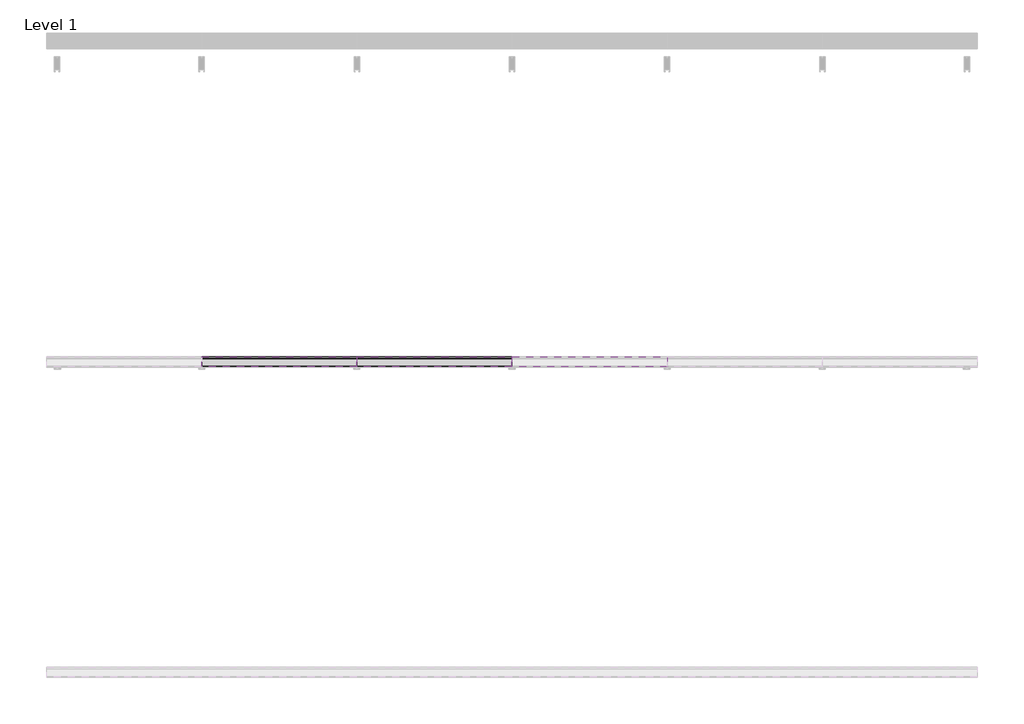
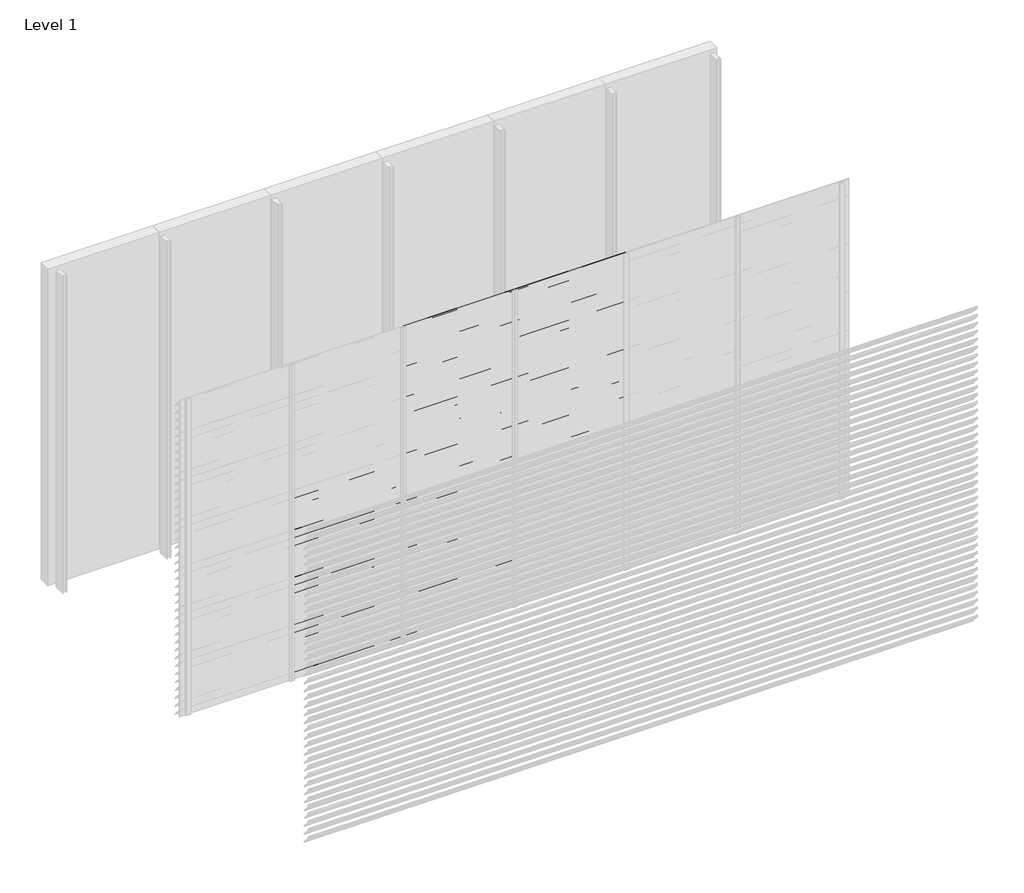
# One storey, part 21 of 35: 86 proxies.
"""IFC4 building model written with IfcOpenShell, lengths in millimetres."""

from ifc_helpers import new_model, si_unit, frame, origin, place, context, project, spatial, polyline, outline, extrude, element, save

model = new_model("IFC4")

# Units and contexts
model_context = context("Model", 3, world=origin())
ifc_project = project(units=[si_unit("LENGTHUNIT", "METRE", prefix="MILLI")], contexts=[model_context])

# Site, building, storey
site = spatial("IfcSite", under=ifc_project)
building = spatial("IfcBuilding", under=site)
storey = spatial("IfcBuildingStorey", under=building, Name="Level 1", Elevation=0.0)

# Proxies
placement = place(None, origin())
element("IfcBuildingElementProxy", 1, Name="Wall Sweeps", at=placement, inside=storey, context=model_context, shape_type="SweptSolid", body=[
    extrude(outline(polyline([(-23996.5, 1725.0), (-23996.5, 1710.5463701), (-23934.5, 1638.9330051), (-23934.5, 1635.4), (-23936.0, 1635.4), (-23936.0, 1638.3738975), (-23998.0, 1709.9872626), (-23998.0, 1725.0), (-23996.5, 1725.0)])), frame((1000.0, 0.0, 0.0), z_axis=(1.0, 0.0, 0.0), x_axis=(0.0, 1.0, 0.0)), (0.0, 0.0, 1.0), 1000.0),
])
element("IfcBuildingElementProxy", 2, Name="Wall Sweeps", at=placement, inside=storey, context=model_context, shape_type="SweptSolid", body=[
    extrude(outline(polyline([(-23996.5, 1650.0), (-23996.5, 1635.5463701), (-23934.5, 1563.9330051), (-23934.5, 1560.4), (-23936.0, 1560.4), (-23936.0, 1563.3738975), (-23998.0, 1634.9872626), (-23998.0, 1650.0), (-23996.5, 1650.0)])), frame((1000.0, 0.0, 0.0), z_axis=(1.0, 0.0, 0.0), x_axis=(0.0, 1.0, 0.0)), (0.0, 0.0, 1.0), 1000.0),
])
element("IfcBuildingElementProxy", 3, Name="Wall Sweeps", at=placement, inside=storey, context=model_context, shape_type="SweptSolid", body=[
    extrude(outline(polyline([(-23996.5, 1575.0), (-23996.5, 1560.5463701), (-23934.5, 1488.9330051), (-23934.5, 1485.4), (-23936.0, 1485.4), (-23936.0, 1488.3738975), (-23998.0, 1559.9872626), (-23998.0, 1575.0), (-23996.5, 1575.0)])), frame((1000.0, 0.0, 0.0), z_axis=(1.0, 0.0, 0.0), x_axis=(0.0, 1.0, 0.0)), (0.0, 0.0, 1.0), 1000.0),
])
element("IfcBuildingElementProxy", 4, Name="Wall Sweeps", at=placement, inside=storey, context=model_context, shape_type="SweptSolid", body=[
    extrude(outline(polyline([(-23996.5, 1500.0), (-23996.5, 1485.5463701), (-23934.5, 1413.9330051), (-23934.5, 1410.4), (-23936.0, 1410.4), (-23936.0, 1413.3738975), (-23998.0, 1484.9872626), (-23998.0, 1500.0), (-23996.5, 1500.0)])), frame((1000.0, 0.0, 0.0), z_axis=(1.0, 0.0, 0.0), x_axis=(0.0, 1.0, 0.0)), (0.0, 0.0, 1.0), 1000.0),
])
element("IfcBuildingElementProxy", 5, Name="Wall Sweeps", at=placement, inside=storey, context=model_context, shape_type="SweptSolid", body=[
    extrude(outline(polyline([(-23996.5, 1425.0), (-23996.5, 1410.5463701), (-23934.5, 1338.9330051), (-23934.5, 1335.4), (-23936.0, 1335.4), (-23936.0, 1338.3738975), (-23998.0, 1409.9872626), (-23998.0, 1425.0), (-23996.5, 1425.0)])), frame((1000.0, 0.0, 0.0), z_axis=(1.0, 0.0, 0.0), x_axis=(0.0, 1.0, 0.0)), (0.0, 0.0, 1.0), 1000.0),
])
element("IfcBuildingElementProxy", 6, Name="Wall Sweeps", at=placement, inside=storey, context=model_context, shape_type="SweptSolid", body=[
    extrude(outline(polyline([(-23996.5, 1350.0), (-23996.5, 1335.5463701), (-23934.5, 1263.9330051), (-23934.5, 1260.4), (-23936.0, 1260.4), (-23936.0, 1263.3738975), (-23998.0, 1334.9872626), (-23998.0, 1350.0), (-23996.5, 1350.0)])), frame((1000.0, 0.0, 0.0), z_axis=(1.0, 0.0, 0.0), x_axis=(0.0, 1.0, 0.0)), (0.0, 0.0, 1.0), 1000.0),
])
element("IfcBuildingElementProxy", 7, Name="Wall Sweeps", at=placement, inside=storey, context=model_context, shape_type="SweptSolid", body=[
    extrude(outline(polyline([(-23996.5, 1275.0), (-23996.5, 1260.5463701), (-23934.5, 1188.9330051), (-23934.5, 1185.4), (-23936.0, 1185.4), (-23936.0, 1188.3738975), (-23998.0, 1259.9872626), (-23998.0, 1275.0), (-23996.5, 1275.0)])), frame((1000.0, 0.0, 0.0), z_axis=(1.0, 0.0, 0.0), x_axis=(0.0, 1.0, 0.0)), (0.0, 0.0, 1.0), 1000.0),
])
element("IfcBuildingElementProxy", 8, Name="Wall Sweeps", at=placement, inside=storey, context=model_context, shape_type="SweptSolid", body=[
    extrude(outline(polyline([(-23996.5, 1200.0), (-23996.5, 1185.5463701), (-23934.5, 1113.9330051), (-23934.5, 1110.4), (-23936.0, 1110.4), (-23936.0, 1113.3738975), (-23998.0, 1184.9872626), (-23998.0, 1200.0), (-23996.5, 1200.0)])), frame((1000.0, 0.0, 0.0), z_axis=(1.0, 0.0, 0.0), x_axis=(0.0, 1.0, 0.0)), (0.0, 0.0, 1.0), 1000.0),
])
element("IfcBuildingElementProxy", 9, Name="Wall Sweeps", at=placement, inside=storey, context=model_context, shape_type="SweptSolid", body=[
    extrude(outline(polyline([(-23996.5, 1125.0), (-23996.5, 1110.5463701), (-23934.5, 1038.9330051), (-23934.5, 1035.4), (-23936.0, 1035.4), (-23936.0, 1038.3738975), (-23998.0, 1109.9872626), (-23998.0, 1125.0), (-23996.5, 1125.0)])), frame((1000.0, 0.0, 0.0), z_axis=(1.0, 0.0, 0.0), x_axis=(0.0, 1.0, 0.0)), (0.0, 0.0, 1.0), 1000.0),
])
element("IfcBuildingElementProxy", 10, Name="Wall Sweeps", at=placement, inside=storey, context=model_context, shape_type="SweptSolid", body=[
    extrude(outline(polyline([(-23996.5, 1050.0), (-23996.5, 1035.5463701), (-23934.5, 963.9330051), (-23934.5, 960.4), (-23936.0, 960.4), (-23936.0, 963.3738975), (-23998.0, 1034.9872626), (-23998.0, 1050.0), (-23996.5, 1050.0)])), frame((1000.0, 0.0, 0.0), z_axis=(1.0, 0.0, 0.0), x_axis=(0.0, 1.0, 0.0)), (0.0, 0.0, 1.0), 1000.0),
])
element("IfcBuildingElementProxy", 11, Name="Wall Sweeps", at=placement, inside=storey, context=model_context, shape_type="SweptSolid", body=[
    extrude(outline(polyline([(-23996.5, 975.0), (-23996.5, 960.5463701), (-23934.5, 888.9330051), (-23934.5, 885.4), (-23936.0, 885.4), (-23936.0, 888.3738975), (-23998.0, 959.9872626), (-23998.0, 975.0), (-23996.5, 975.0)])), frame((1000.0, 0.0, 0.0), z_axis=(1.0, 0.0, 0.0), x_axis=(0.0, 1.0, 0.0)), (0.0, 0.0, 1.0), 1000.0),
])
element("IfcBuildingElementProxy", 12, Name="Wall Sweeps", at=placement, inside=storey, context=model_context, shape_type="SweptSolid", body=[
    extrude(outline(polyline([(-23996.5, 900.0), (-23996.5, 885.5463701), (-23934.5, 813.9330051), (-23934.5, 810.4), (-23936.0, 810.4), (-23936.0, 813.3738975), (-23998.0, 884.9872626), (-23998.0, 900.0), (-23996.5, 900.0)])), frame((1000.0, 0.0, 0.0), z_axis=(1.0, 0.0, 0.0), x_axis=(0.0, 1.0, 0.0)), (0.0, 0.0, 1.0), 1000.0),
])
element("IfcBuildingElementProxy", 13, Name="Wall Sweeps", at=placement, inside=storey, context=model_context, shape_type="SweptSolid", body=[
    extrude(outline(polyline([(-23996.5, 825.0), (-23996.5, 810.5463701), (-23934.5, 738.9330051), (-23934.5, 735.4), (-23936.0, 735.4), (-23936.0, 738.3738975), (-23998.0, 809.9872626), (-23998.0, 825.0), (-23996.5, 825.0)])), frame((1000.0, 0.0, 0.0), z_axis=(1.0, 0.0, 0.0), x_axis=(0.0, 1.0, 0.0)), (0.0, 0.0, 1.0), 1000.0),
])
element("IfcBuildingElementProxy", 14, Name="Wall Sweeps", at=placement, inside=storey, context=model_context, shape_type="SweptSolid", body=[
    extrude(outline(polyline([(-23996.5, 750.0), (-23996.5, 735.5463701), (-23934.5, 663.9330051), (-23934.5, 660.4), (-23936.0, 660.4), (-23936.0, 663.3738975), (-23998.0, 734.9872626), (-23998.0, 750.0), (-23996.5, 750.0)])), frame((1000.0, 0.0, 0.0), z_axis=(1.0, 0.0, 0.0), x_axis=(0.0, 1.0, 0.0)), (0.0, 0.0, 1.0), 1000.0),
])
element("IfcBuildingElementProxy", 15, Name="Wall Sweeps", at=placement, inside=storey, context=model_context, shape_type="SweptSolid", body=[
    extrude(outline(polyline([(-23996.5, 675.0), (-23996.5, 660.5463701), (-23934.5, 588.9330051), (-23934.5, 585.4), (-23936.0, 585.4), (-23936.0, 588.3738975), (-23998.0, 659.9872626), (-23998.0, 675.0), (-23996.5, 675.0)])), frame((1000.0, 0.0, 0.0), z_axis=(1.0, 0.0, 0.0), x_axis=(0.0, 1.0, 0.0)), (0.0, 0.0, 1.0), 1000.0),
])
element("IfcBuildingElementProxy", 16, Name="Wall Sweeps", at=placement, inside=storey, context=model_context, shape_type="SweptSolid", body=[
    extrude(outline(polyline([(-23996.5, 600.0), (-23996.5, 585.5463701), (-23934.5, 513.9330051), (-23934.5, 510.4), (-23936.0, 510.4), (-23936.0, 513.3738975), (-23998.0, 584.9872626), (-23998.0, 600.0), (-23996.5, 600.0)])), frame((1000.0, 0.0, 0.0), z_axis=(1.0, 0.0, 0.0), x_axis=(0.0, 1.0, 0.0)), (0.0, 0.0, 1.0), 1000.0),
])
element("IfcBuildingElementProxy", 17, Name="Wall Sweeps", at=placement, inside=storey, context=model_context, shape_type="SweptSolid", body=[
    extrude(outline(polyline([(-23996.5, 525.0), (-23996.5, 510.5463701), (-23934.5, 438.9330051), (-23934.5, 435.4), (-23936.0, 435.4), (-23936.0, 438.3738975), (-23998.0, 509.9872626), (-23998.0, 525.0), (-23996.5, 525.0)])), frame((1000.0, 0.0, 0.0), z_axis=(1.0, 0.0, 0.0), x_axis=(0.0, 1.0, 0.0)), (0.0, 0.0, 1.0), 1000.0),
])
element("IfcBuildingElementProxy", 18, Name="Wall Sweeps", at=placement, inside=storey, context=model_context, shape_type="SweptSolid", body=[
    extrude(outline(polyline([(-23996.5, 450.0), (-23996.5, 435.5463701), (-23934.5, 363.9330051), (-23934.5, 360.4), (-23936.0, 360.4), (-23936.0, 363.3738975), (-23998.0, 434.9872626), (-23998.0, 450.0), (-23996.5, 450.0)])), frame((1000.0, 0.0, 0.0), z_axis=(1.0, 0.0, 0.0), x_axis=(0.0, 1.0, 0.0)), (0.0, 0.0, 1.0), 1000.0),
])
element("IfcBuildingElementProxy", 19, Name="Wall Sweeps", at=placement, inside=storey, context=model_context, shape_type="SweptSolid", body=[
    extrude(outline(polyline([(-23996.5, 375.0), (-23996.5, 360.5463701), (-23934.5, 288.9330051), (-23934.5, 285.4), (-23936.0, 285.4), (-23936.0, 288.3738975), (-23998.0, 359.9872626), (-23998.0, 375.0), (-23996.5, 375.0)])), frame((1000.0, 0.0, 0.0), z_axis=(1.0, 0.0, 0.0), x_axis=(0.0, 1.0, 0.0)), (0.0, 0.0, 1.0), 1000.0),
])
element("IfcBuildingElementProxy", 20, Name="Wall Sweeps", at=placement, inside=storey, context=model_context, shape_type="SweptSolid", body=[
    extrude(outline(polyline([(-23996.5, 300.0), (-23996.5, 285.5463701), (-23934.5, 213.9330051), (-23934.5, 210.4), (-23936.0, 210.4), (-23936.0, 213.3738975), (-23998.0, 284.9872626), (-23998.0, 300.0), (-23996.5, 300.0)])), frame((1000.0, 0.0, 0.0), z_axis=(1.0, 0.0, 0.0), x_axis=(0.0, 1.0, 0.0)), (0.0, 0.0, 1.0), 1000.0),
])
element("IfcBuildingElementProxy", 21, Name="Wall Sweeps", at=placement, inside=storey, context=model_context, shape_type="SweptSolid", body=[
    extrude(outline(polyline([(-23996.5, 225.0), (-23996.5, 210.5463701), (-23934.5, 138.9330051), (-23934.5, 135.4), (-23936.0, 135.4), (-23936.0, 138.3738975), (-23998.0, 209.9872626), (-23998.0, 225.0), (-23996.5, 225.0)])), frame((1000.0, 0.0, 0.0), z_axis=(1.0, 0.0, 0.0), x_axis=(0.0, 1.0, 0.0)), (0.0, 0.0, 1.0), 1000.0),
])
element("IfcBuildingElementProxy", 22, Name="Wall Sweeps", at=placement, inside=storey, context=model_context, shape_type="SweptSolid", body=[
    extrude(outline(polyline([(-23996.5, 150.0), (-23996.5, 135.5463701), (-23934.5, 63.9330051), (-23934.5, 60.4), (-23936.0, 60.4), (-23936.0, 63.3738975), (-23998.0, 134.9872626), (-23998.0, 150.0), (-23996.5, 150.0)])), frame((1000.0, 0.0, 0.0), z_axis=(1.0, 0.0, 0.0), x_axis=(0.0, 1.0, 0.0)), (0.0, 0.0, 1.0), 1000.0),
])
element("IfcBuildingElementProxy", 23, Name="Wall Sweeps", at=placement, inside=storey, context=model_context, shape_type="SweptSolid", body=[
    extrude(outline(polyline([(-23996.5, 75.0), (-23996.5, 60.5463701), (-23934.5, -11.0669949), (-23934.5, -14.6), (-23936.0, -14.6), (-23936.0, -11.6261025), (-23998.0, 59.9872626), (-23998.0, 75.0), (-23996.5, 75.0)])), frame((1000.0, 0.0, 0.0), z_axis=(1.0, 0.0, 0.0), x_axis=(0.0, 1.0, 0.0)), (0.0, 0.0, 1.0), 1000.0),
])
element("IfcBuildingElementProxy", 24, Name="Wall Sweeps", at=placement, inside=storey, context=model_context, shape_type="SweptSolid", body=[
    extrude(outline(polyline([(-23996.5, 3000.0), (-23996.5, 2985.5463701), (-23934.5, 2913.9330051), (-23934.5, 2910.4), (-23936.0, 2910.4), (-23936.0, 2913.3738975), (-23998.0, 2984.9872626), (-23998.0, 3000.0), (-23996.5, 3000.0)])), frame((2000.0, 0.0, 0.0), z_axis=(1.0, 0.0, 0.0), x_axis=(0.0, 1.0, 0.0)), (0.0, 0.0, 1.0), 1000.0),
])
element("IfcBuildingElementProxy", 25, Name="Wall Sweeps", at=placement, inside=storey, context=model_context, shape_type="SweptSolid", body=[
    extrude(outline(polyline([(-23996.5, 2925.0), (-23996.5, 2910.5463701), (-23934.5, 2838.9330051), (-23934.5, 2835.4), (-23936.0, 2835.4), (-23936.0, 2838.3738975), (-23998.0, 2909.9872626), (-23998.0, 2925.0), (-23996.5, 2925.0)])), frame((2000.0, 0.0, 0.0), z_axis=(1.0, 0.0, 0.0), x_axis=(0.0, 1.0, 0.0)), (0.0, 0.0, 1.0), 1000.0),
])
element("IfcBuildingElementProxy", 26, Name="Wall Sweeps", at=placement, inside=storey, context=model_context, shape_type="SweptSolid", body=[
    extrude(outline(polyline([(-23996.5, 2850.0), (-23996.5, 2835.5463701), (-23934.5, 2763.9330051), (-23934.5, 2760.4), (-23936.0, 2760.4), (-23936.0, 2763.3738975), (-23998.0, 2834.9872626), (-23998.0, 2850.0), (-23996.5, 2850.0)])), frame((2000.0, 0.0, 0.0), z_axis=(1.0, 0.0, 0.0), x_axis=(0.0, 1.0, 0.0)), (0.0, 0.0, 1.0), 1000.0),
])
element("IfcBuildingElementProxy", 27, Name="Wall Sweeps", at=placement, inside=storey, context=model_context, shape_type="SweptSolid", body=[
    extrude(outline(polyline([(-23996.5, 2775.0), (-23996.5, 2760.5463701), (-23934.5, 2688.9330051), (-23934.5, 2685.4), (-23936.0, 2685.4), (-23936.0, 2688.3738975), (-23998.0, 2759.9872626), (-23998.0, 2775.0), (-23996.5, 2775.0)])), frame((2000.0, 0.0, 0.0), z_axis=(1.0, 0.0, 0.0), x_axis=(0.0, 1.0, 0.0)), (0.0, 0.0, 1.0), 1000.0),
])
element("IfcBuildingElementProxy", 28, Name="Wall Sweeps", at=placement, inside=storey, context=model_context, shape_type="SweptSolid", body=[
    extrude(outline(polyline([(-23996.5, 2700.0), (-23996.5, 2685.5463701), (-23934.5, 2613.9330051), (-23934.5, 2610.4), (-23936.0, 2610.4), (-23936.0, 2613.3738975), (-23998.0, 2684.9872626), (-23998.0, 2700.0), (-23996.5, 2700.0)])), frame((2000.0, 0.0, 0.0), z_axis=(1.0, 0.0, 0.0), x_axis=(0.0, 1.0, 0.0)), (0.0, 0.0, 1.0), 1000.0),
])
element("IfcBuildingElementProxy", 29, Name="Wall Sweeps", at=placement, inside=storey, context=model_context, shape_type="SweptSolid", body=[
    extrude(outline(polyline([(-23996.5, 2625.0), (-23996.5, 2610.5463701), (-23934.5, 2538.9330051), (-23934.5, 2535.4), (-23936.0, 2535.4), (-23936.0, 2538.3738975), (-23998.0, 2609.9872626), (-23998.0, 2625.0), (-23996.5, 2625.0)])), frame((2000.0, 0.0, 0.0), z_axis=(1.0, 0.0, 0.0), x_axis=(0.0, 1.0, 0.0)), (0.0, 0.0, 1.0), 1000.0),
])
element("IfcBuildingElementProxy", 30, Name="Wall Sweeps", at=placement, inside=storey, context=model_context, shape_type="SweptSolid", body=[
    extrude(outline(polyline([(-23996.5, 2550.0), (-23996.5, 2535.5463701), (-23934.5, 2463.9330051), (-23934.5, 2460.4), (-23936.0, 2460.4), (-23936.0, 2463.3738975), (-23998.0, 2534.9872626), (-23998.0, 2550.0), (-23996.5, 2550.0)])), frame((2000.0, 0.0, 0.0), z_axis=(1.0, 0.0, 0.0), x_axis=(0.0, 1.0, 0.0)), (0.0, 0.0, 1.0), 1000.0),
])
element("IfcBuildingElementProxy", 31, Name="Wall Sweeps", at=placement, inside=storey, context=model_context, shape_type="SweptSolid", body=[
    extrude(outline(polyline([(-23996.5, 2475.0), (-23996.5, 2460.5463701), (-23934.5, 2388.9330051), (-23934.5, 2385.4), (-23936.0, 2385.4), (-23936.0, 2388.3738975), (-23998.0, 2459.9872626), (-23998.0, 2475.0), (-23996.5, 2475.0)])), frame((2000.0, 0.0, 0.0), z_axis=(1.0, 0.0, 0.0), x_axis=(0.0, 1.0, 0.0)), (0.0, 0.0, 1.0), 1000.0),
])
element("IfcBuildingElementProxy", 32, Name="Wall Sweeps", at=placement, inside=storey, context=model_context, shape_type="SweptSolid", body=[
    extrude(outline(polyline([(-23996.5, 2400.0), (-23996.5, 2385.5463701), (-23934.5, 2313.9330051), (-23934.5, 2310.4), (-23936.0, 2310.4), (-23936.0, 2313.3738975), (-23998.0, 2384.9872626), (-23998.0, 2400.0), (-23996.5, 2400.0)])), frame((2000.0, 0.0, 0.0), z_axis=(1.0, 0.0, 0.0), x_axis=(0.0, 1.0, 0.0)), (0.0, 0.0, 1.0), 1000.0),
])
element("IfcBuildingElementProxy", 33, Name="Wall Sweeps", at=placement, inside=storey, context=model_context, shape_type="SweptSolid", body=[
    extrude(outline(polyline([(-23996.5, 2325.0), (-23996.5, 2310.5463701), (-23934.5, 2238.9330051), (-23934.5, 2235.4), (-23936.0, 2235.4), (-23936.0, 2238.3738975), (-23998.0, 2309.9872626), (-23998.0, 2325.0), (-23996.5, 2325.0)])), frame((2000.0, 0.0, 0.0), z_axis=(1.0, 0.0, 0.0), x_axis=(0.0, 1.0, 0.0)), (0.0, 0.0, 1.0), 1000.0),
])
element("IfcBuildingElementProxy", 34, Name="Wall Sweeps", at=placement, inside=storey, context=model_context, shape_type="SweptSolid", body=[
    extrude(outline(polyline([(-23996.5, 2250.0), (-23996.5, 2235.5463701), (-23934.5, 2163.9330051), (-23934.5, 2160.4), (-23936.0, 2160.4), (-23936.0, 2163.3738975), (-23998.0, 2234.9872626), (-23998.0, 2250.0), (-23996.5, 2250.0)])), frame((2000.0, 0.0, 0.0), z_axis=(1.0, 0.0, 0.0), x_axis=(0.0, 1.0, 0.0)), (0.0, 0.0, 1.0), 1000.0),
])
element("IfcBuildingElementProxy", 35, Name="Wall Sweeps", at=placement, inside=storey, context=model_context, shape_type="SweptSolid", body=[
    extrude(outline(polyline([(-23996.5, 2175.0), (-23996.5, 2160.5463701), (-23934.5, 2088.9330051), (-23934.5, 2085.4), (-23936.0, 2085.4), (-23936.0, 2088.3738975), (-23998.0, 2159.9872626), (-23998.0, 2175.0), (-23996.5, 2175.0)])), frame((2000.0, 0.0, 0.0), z_axis=(1.0, 0.0, 0.0), x_axis=(0.0, 1.0, 0.0)), (0.0, 0.0, 1.0), 1000.0),
])
element("IfcBuildingElementProxy", 36, Name="Wall Sweeps", at=placement, inside=storey, context=model_context, shape_type="SweptSolid", body=[
    extrude(outline(polyline([(-23996.5, 2100.0), (-23996.5, 2085.5463701), (-23934.5, 2013.9330051), (-23934.5, 2010.4), (-23936.0, 2010.4), (-23936.0, 2013.3738975), (-23998.0, 2084.9872626), (-23998.0, 2100.0), (-23996.5, 2100.0)])), frame((2000.0, 0.0, 0.0), z_axis=(1.0, 0.0, 0.0), x_axis=(0.0, 1.0, 0.0)), (0.0, 0.0, 1.0), 1000.0),
])
element("IfcBuildingElementProxy", 37, Name="Wall Sweeps", at=placement, inside=storey, context=model_context, shape_type="SweptSolid", body=[
    extrude(outline(polyline([(-23996.5, 2025.0), (-23996.5, 2010.5463701), (-23934.5, 1938.9330051), (-23934.5, 1935.4), (-23936.0, 1935.4), (-23936.0, 1938.3738975), (-23998.0, 2009.9872626), (-23998.0, 2025.0), (-23996.5, 2025.0)])), frame((2000.0, 0.0, 0.0), z_axis=(1.0, 0.0, 0.0), x_axis=(0.0, 1.0, 0.0)), (0.0, 0.0, 1.0), 1000.0),
])
element("IfcBuildingElementProxy", 38, Name="Wall Sweeps", at=placement, inside=storey, context=model_context, shape_type="SweptSolid", body=[
    extrude(outline(polyline([(-23996.5, 1950.0), (-23996.5, 1935.5463701), (-23934.5, 1863.9330051), (-23934.5, 1860.4), (-23936.0, 1860.4), (-23936.0, 1863.3738975), (-23998.0, 1934.9872626), (-23998.0, 1950.0), (-23996.5, 1950.0)])), frame((2000.0, 0.0, 0.0), z_axis=(1.0, 0.0, 0.0), x_axis=(0.0, 1.0, 0.0)), (0.0, 0.0, 1.0), 1000.0),
])
element("IfcBuildingElementProxy", 39, Name="Wall Sweeps", at=placement, inside=storey, context=model_context, shape_type="SweptSolid", body=[
    extrude(outline(polyline([(-23996.5, 1875.0), (-23996.5, 1860.5463701), (-23934.5, 1788.9330051), (-23934.5, 1785.4), (-23936.0, 1785.4), (-23936.0, 1788.3738975), (-23998.0, 1859.9872626), (-23998.0, 1875.0), (-23996.5, 1875.0)])), frame((2000.0, 0.0, 0.0), z_axis=(1.0, 0.0, 0.0), x_axis=(0.0, 1.0, 0.0)), (0.0, 0.0, 1.0), 1000.0),
])
element("IfcBuildingElementProxy", 40, Name="Wall Sweeps", at=placement, inside=storey, context=model_context, shape_type="SweptSolid", body=[
    extrude(outline(polyline([(-23996.5, 1800.0), (-23996.5, 1785.5463701), (-23934.5, 1713.9330051), (-23934.5, 1710.4), (-23936.0, 1710.4), (-23936.0, 1713.3738975), (-23998.0, 1784.9872626), (-23998.0, 1800.0), (-23996.5, 1800.0)])), frame((2000.0, 0.0, 0.0), z_axis=(1.0, 0.0, 0.0), x_axis=(0.0, 1.0, 0.0)), (0.0, 0.0, 1.0), 1000.0),
])
element("IfcBuildingElementProxy", 41, Name="Wall Sweeps", at=placement, inside=storey, context=model_context, shape_type="SweptSolid", body=[
    extrude(outline(polyline([(-23996.5, 1725.0), (-23996.5, 1710.5463701), (-23934.5, 1638.9330051), (-23934.5, 1635.4), (-23936.0, 1635.4), (-23936.0, 1638.3738975), (-23998.0, 1709.9872626), (-23998.0, 1725.0), (-23996.5, 1725.0)])), frame((2000.0, 0.0, 0.0), z_axis=(1.0, 0.0, 0.0), x_axis=(0.0, 1.0, 0.0)), (0.0, 0.0, 1.0), 1000.0),
])
element("IfcBuildingElementProxy", 42, Name="Wall Sweeps", at=placement, inside=storey, context=model_context, shape_type="SweptSolid", body=[
    extrude(outline(polyline([(-23996.5, 1650.0), (-23996.5, 1635.5463701), (-23934.5, 1563.9330051), (-23934.5, 1560.4), (-23936.0, 1560.4), (-23936.0, 1563.3738975), (-23998.0, 1634.9872626), (-23998.0, 1650.0), (-23996.5, 1650.0)])), frame((2000.0, 0.0, 0.0), z_axis=(1.0, 0.0, 0.0), x_axis=(0.0, 1.0, 0.0)), (0.0, 0.0, 1.0), 1000.0),
])
element("IfcBuildingElementProxy", 43, Name="Wall Sweeps", at=placement, inside=storey, context=model_context, shape_type="SweptSolid", body=[
    extrude(outline(polyline([(-23996.5, 1575.0), (-23996.5, 1560.5463701), (-23934.5, 1488.9330051), (-23934.5, 1485.4), (-23936.0, 1485.4), (-23936.0, 1488.3738975), (-23998.0, 1559.9872626), (-23998.0, 1575.0), (-23996.5, 1575.0)])), frame((2000.0, 0.0, 0.0), z_axis=(1.0, 0.0, 0.0), x_axis=(0.0, 1.0, 0.0)), (0.0, 0.0, 1.0), 1000.0),
])
element("IfcBuildingElementProxy", 44, Name="Wall Sweeps", at=placement, inside=storey, context=model_context, shape_type="SweptSolid", body=[
    extrude(outline(polyline([(-23996.5, 1500.0), (-23996.5, 1485.5463701), (-23934.5, 1413.9330051), (-23934.5, 1410.4), (-23936.0, 1410.4), (-23936.0, 1413.3738975), (-23998.0, 1484.9872626), (-23998.0, 1500.0), (-23996.5, 1500.0)])), frame((2000.0, 0.0, 0.0), z_axis=(1.0, 0.0, 0.0), x_axis=(0.0, 1.0, 0.0)), (0.0, 0.0, 1.0), 1000.0),
])
element("IfcBuildingElementProxy", 45, Name="Wall Sweeps", at=placement, inside=storey, context=model_context, shape_type="SweptSolid", body=[
    extrude(outline(polyline([(-23996.5, 1425.0), (-23996.5, 1410.5463701), (-23934.5, 1338.9330051), (-23934.5, 1335.4), (-23936.0, 1335.4), (-23936.0, 1338.3738975), (-23998.0, 1409.9872626), (-23998.0, 1425.0), (-23996.5, 1425.0)])), frame((2000.0, 0.0, 0.0), z_axis=(1.0, 0.0, 0.0), x_axis=(0.0, 1.0, 0.0)), (0.0, 0.0, 1.0), 1000.0),
])
element("IfcBuildingElementProxy", 46, Name="Wall Sweeps", at=placement, inside=storey, context=model_context, shape_type="SweptSolid", body=[
    extrude(outline(polyline([(-23996.5, 1350.0), (-23996.5, 1335.5463701), (-23934.5, 1263.9330051), (-23934.5, 1260.4), (-23936.0, 1260.4), (-23936.0, 1263.3738975), (-23998.0, 1334.9872626), (-23998.0, 1350.0), (-23996.5, 1350.0)])), frame((2000.0, 0.0, 0.0), z_axis=(1.0, 0.0, 0.0), x_axis=(0.0, 1.0, 0.0)), (0.0, 0.0, 1.0), 1000.0),
])
element("IfcBuildingElementProxy", 47, Name="Wall Sweeps", at=placement, inside=storey, context=model_context, shape_type="SweptSolid", body=[
    extrude(outline(polyline([(-23996.5, 1275.0), (-23996.5, 1260.5463701), (-23934.5, 1188.9330051), (-23934.5, 1185.4), (-23936.0, 1185.4), (-23936.0, 1188.3738975), (-23998.0, 1259.9872626), (-23998.0, 1275.0), (-23996.5, 1275.0)])), frame((2000.0, 0.0, 0.0), z_axis=(1.0, 0.0, 0.0), x_axis=(0.0, 1.0, 0.0)), (0.0, 0.0, 1.0), 1000.0),
])
element("IfcBuildingElementProxy", 48, Name="Wall Sweeps", at=placement, inside=storey, context=model_context, shape_type="SweptSolid", body=[
    extrude(outline(polyline([(-23996.5, 1200.0), (-23996.5, 1185.5463701), (-23934.5, 1113.9330051), (-23934.5, 1110.4), (-23936.0, 1110.4), (-23936.0, 1113.3738975), (-23998.0, 1184.9872626), (-23998.0, 1200.0), (-23996.5, 1200.0)])), frame((2000.0, 0.0, 0.0), z_axis=(1.0, 0.0, 0.0), x_axis=(0.0, 1.0, 0.0)), (0.0, 0.0, 1.0), 1000.0),
])
element("IfcBuildingElementProxy", 49, Name="Wall Sweeps", at=placement, inside=storey, context=model_context, shape_type="SweptSolid", body=[
    extrude(outline(polyline([(-23996.5, 1125.0), (-23996.5, 1110.5463701), (-23934.5, 1038.9330051), (-23934.5, 1035.4), (-23936.0, 1035.4), (-23936.0, 1038.3738975), (-23998.0, 1109.9872626), (-23998.0, 1125.0), (-23996.5, 1125.0)])), frame((2000.0, 0.0, 0.0), z_axis=(1.0, 0.0, 0.0), x_axis=(0.0, 1.0, 0.0)), (0.0, 0.0, 1.0), 1000.0),
])
element("IfcBuildingElementProxy", 50, Name="Wall Sweeps", at=placement, inside=storey, context=model_context, shape_type="SweptSolid", body=[
    extrude(outline(polyline([(-23996.5, 1050.0), (-23996.5, 1035.5463701), (-23934.5, 963.9330051), (-23934.5, 960.4), (-23936.0, 960.4), (-23936.0, 963.3738975), (-23998.0, 1034.9872626), (-23998.0, 1050.0), (-23996.5, 1050.0)])), frame((2000.0, 0.0, 0.0), z_axis=(1.0, 0.0, 0.0), x_axis=(0.0, 1.0, 0.0)), (0.0, 0.0, 1.0), 1000.0),
])
element("IfcBuildingElementProxy", 51, Name="Wall Sweeps", at=placement, inside=storey, context=model_context, shape_type="SweptSolid", body=[
    extrude(outline(polyline([(-23996.5, 975.0), (-23996.5, 960.5463701), (-23934.5, 888.9330051), (-23934.5, 885.4), (-23936.0, 885.4), (-23936.0, 888.3738975), (-23998.0, 959.9872626), (-23998.0, 975.0), (-23996.5, 975.0)])), frame((2000.0, 0.0, 0.0), z_axis=(1.0, 0.0, 0.0), x_axis=(0.0, 1.0, 0.0)), (0.0, 0.0, 1.0), 1000.0),
])
element("IfcBuildingElementProxy", 52, Name="Wall Sweeps", at=placement, inside=storey, context=model_context, shape_type="SweptSolid", body=[
    extrude(outline(polyline([(-23996.5, 900.0), (-23996.5, 885.5463701), (-23934.5, 813.9330051), (-23934.5, 810.4), (-23936.0, 810.4), (-23936.0, 813.3738975), (-23998.0, 884.9872626), (-23998.0, 900.0), (-23996.5, 900.0)])), frame((2000.0, 0.0, 0.0), z_axis=(1.0, 0.0, 0.0), x_axis=(0.0, 1.0, 0.0)), (0.0, 0.0, 1.0), 1000.0),
])
element("IfcBuildingElementProxy", 53, Name="Wall Sweeps", at=placement, inside=storey, context=model_context, shape_type="SweptSolid", body=[
    extrude(outline(polyline([(-23996.5, 825.0), (-23996.5, 810.5463701), (-23934.5, 738.9330051), (-23934.5, 735.4), (-23936.0, 735.4), (-23936.0, 738.3738975), (-23998.0, 809.9872626), (-23998.0, 825.0), (-23996.5, 825.0)])), frame((2000.0, 0.0, 0.0), z_axis=(1.0, 0.0, 0.0), x_axis=(0.0, 1.0, 0.0)), (0.0, 0.0, 1.0), 1000.0),
])
element("IfcBuildingElementProxy", 54, Name="Wall Sweeps", at=placement, inside=storey, context=model_context, shape_type="SweptSolid", body=[
    extrude(outline(polyline([(-23996.5, 750.0), (-23996.5, 735.5463701), (-23934.5, 663.9330051), (-23934.5, 660.4), (-23936.0, 660.4), (-23936.0, 663.3738975), (-23998.0, 734.9872626), (-23998.0, 750.0), (-23996.5, 750.0)])), frame((2000.0, 0.0, 0.0), z_axis=(1.0, 0.0, 0.0), x_axis=(0.0, 1.0, 0.0)), (0.0, 0.0, 1.0), 1000.0),
])
element("IfcBuildingElementProxy", 55, Name="Wall Sweeps", at=placement, inside=storey, context=model_context, shape_type="SweptSolid", body=[
    extrude(outline(polyline([(-23996.5, 675.0), (-23996.5, 660.5463701), (-23934.5, 588.9330051), (-23934.5, 585.4), (-23936.0, 585.4), (-23936.0, 588.3738975), (-23998.0, 659.9872626), (-23998.0, 675.0), (-23996.5, 675.0)])), frame((2000.0, 0.0, 0.0), z_axis=(1.0, 0.0, 0.0), x_axis=(0.0, 1.0, 0.0)), (0.0, 0.0, 1.0), 1000.0),
])
element("IfcBuildingElementProxy", 56, Name="Wall Sweeps", at=placement, inside=storey, context=model_context, shape_type="SweptSolid", body=[
    extrude(outline(polyline([(-23996.5, 600.0), (-23996.5, 585.5463701), (-23934.5, 513.9330051), (-23934.5, 510.4), (-23936.0, 510.4), (-23936.0, 513.3738975), (-23998.0, 584.9872626), (-23998.0, 600.0), (-23996.5, 600.0)])), frame((2000.0, 0.0, 0.0), z_axis=(1.0, 0.0, 0.0), x_axis=(0.0, 1.0, 0.0)), (0.0, 0.0, 1.0), 1000.0),
])
element("IfcBuildingElementProxy", 57, Name="Wall Sweeps", at=placement, inside=storey, context=model_context, shape_type="SweptSolid", body=[
    extrude(outline(polyline([(-23996.5, 525.0), (-23996.5, 510.5463701), (-23934.5, 438.9330051), (-23934.5, 435.4), (-23936.0, 435.4), (-23936.0, 438.3738975), (-23998.0, 509.9872626), (-23998.0, 525.0), (-23996.5, 525.0)])), frame((2000.0, 0.0, 0.0), z_axis=(1.0, 0.0, 0.0), x_axis=(0.0, 1.0, 0.0)), (0.0, 0.0, 1.0), 1000.0),
])
element("IfcBuildingElementProxy", 58, Name="Wall Sweeps", at=placement, inside=storey, context=model_context, shape_type="SweptSolid", body=[
    extrude(outline(polyline([(-23996.5, 450.0), (-23996.5, 435.5463701), (-23934.5, 363.9330051), (-23934.5, 360.4), (-23936.0, 360.4), (-23936.0, 363.3738975), (-23998.0, 434.9872626), (-23998.0, 450.0), (-23996.5, 450.0)])), frame((2000.0, 0.0, 0.0), z_axis=(1.0, 0.0, 0.0), x_axis=(0.0, 1.0, 0.0)), (0.0, 0.0, 1.0), 1000.0),
])
element("IfcBuildingElementProxy", 59, Name="Wall Sweeps", at=placement, inside=storey, context=model_context, shape_type="SweptSolid", body=[
    extrude(outline(polyline([(-23996.5, 375.0), (-23996.5, 360.5463701), (-23934.5, 288.9330051), (-23934.5, 285.4), (-23936.0, 285.4), (-23936.0, 288.3738975), (-23998.0, 359.9872626), (-23998.0, 375.0), (-23996.5, 375.0)])), frame((2000.0, 0.0, 0.0), z_axis=(1.0, 0.0, 0.0), x_axis=(0.0, 1.0, 0.0)), (0.0, 0.0, 1.0), 1000.0),
])
element("IfcBuildingElementProxy", 60, Name="Wall Sweeps", at=placement, inside=storey, context=model_context, shape_type="SweptSolid", body=[
    extrude(outline(polyline([(-23996.5, 300.0), (-23996.5, 285.5463701), (-23934.5, 213.9330051), (-23934.5, 210.4), (-23936.0, 210.4), (-23936.0, 213.3738975), (-23998.0, 284.9872626), (-23998.0, 300.0), (-23996.5, 300.0)])), frame((2000.0, 0.0, 0.0), z_axis=(1.0, 0.0, 0.0), x_axis=(0.0, 1.0, 0.0)), (0.0, 0.0, 1.0), 1000.0),
])
element("IfcBuildingElementProxy", 61, Name="Wall Sweeps", at=placement, inside=storey, context=model_context, shape_type="SweptSolid", body=[
    extrude(outline(polyline([(-23996.5, 225.0), (-23996.5, 210.5463701), (-23934.5, 138.9330051), (-23934.5, 135.4), (-23936.0, 135.4), (-23936.0, 138.3738975), (-23998.0, 209.9872626), (-23998.0, 225.0), (-23996.5, 225.0)])), frame((2000.0, 0.0, 0.0), z_axis=(1.0, 0.0, 0.0), x_axis=(0.0, 1.0, 0.0)), (0.0, 0.0, 1.0), 1000.0),
])
element("IfcBuildingElementProxy", 62, Name="Wall Sweeps", at=placement, inside=storey, context=model_context, shape_type="SweptSolid", body=[
    extrude(outline(polyline([(-23996.5, 150.0), (-23996.5, 135.5463701), (-23934.5, 63.9330051), (-23934.5, 60.4), (-23936.0, 60.4), (-23936.0, 63.3738975), (-23998.0, 134.9872626), (-23998.0, 150.0), (-23996.5, 150.0)])), frame((2000.0, 0.0, 0.0), z_axis=(1.0, 0.0, 0.0), x_axis=(0.0, 1.0, 0.0)), (0.0, 0.0, 1.0), 1000.0),
])
element("IfcBuildingElementProxy", 63, Name="Wall Sweeps", at=placement, inside=storey, context=model_context, shape_type="SweptSolid", body=[
    extrude(outline(polyline([(-23996.5, 75.0), (-23996.5, 60.5463701), (-23934.5, -11.0669949), (-23934.5, -14.6), (-23936.0, -14.6), (-23936.0, -11.6261025), (-23998.0, 59.9872626), (-23998.0, 75.0), (-23996.5, 75.0)])), frame((2000.0, 0.0, 0.0), z_axis=(1.0, 0.0, 0.0), x_axis=(0.0, 1.0, 0.0)), (0.0, 0.0, 1.0), 1000.0),
])
element("IfcBuildingElementProxy", 64, Name="Wall Sweeps", at=placement, inside=storey, context=model_context, shape_type="SweptSolid", body=[
    extrude(outline(polyline([(-23996.5, 3000.0), (-23996.5, 2985.5463701), (-23934.5, 2913.9330051), (-23934.5, 2910.4), (-23936.0, 2910.4), (-23936.0, 2913.3738975), (-23998.0, 2984.9872626), (-23998.0, 3000.0), (-23996.5, 3000.0)])), frame((3000.0, 0.0, 0.0), z_axis=(1.0, 0.0, 0.0), x_axis=(0.0, 1.0, 0.0)), (0.0, 0.0, 1.0), 1000.0),
])
element("IfcBuildingElementProxy", 65, Name="Wall Sweeps", at=placement, inside=storey, context=model_context, shape_type="SweptSolid", body=[
    extrude(outline(polyline([(-23996.5, 2925.0), (-23996.5, 2910.5463701), (-23934.5, 2838.9330051), (-23934.5, 2835.4), (-23936.0, 2835.4), (-23936.0, 2838.3738975), (-23998.0, 2909.9872626), (-23998.0, 2925.0), (-23996.5, 2925.0)])), frame((3000.0, 0.0, 0.0), z_axis=(1.0, 0.0, 0.0), x_axis=(0.0, 1.0, 0.0)), (0.0, 0.0, 1.0), 1000.0),
])
element("IfcBuildingElementProxy", 66, Name="Wall Sweeps", at=placement, inside=storey, context=model_context, shape_type="SweptSolid", body=[
    extrude(outline(polyline([(-23996.5, 2850.0), (-23996.5, 2835.5463701), (-23934.5, 2763.9330051), (-23934.5, 2760.4), (-23936.0, 2760.4), (-23936.0, 2763.3738975), (-23998.0, 2834.9872626), (-23998.0, 2850.0), (-23996.5, 2850.0)])), frame((3000.0, 0.0, 0.0), z_axis=(1.0, 0.0, 0.0), x_axis=(0.0, 1.0, 0.0)), (0.0, 0.0, 1.0), 1000.0),
])
element("IfcBuildingElementProxy", 67, Name="Wall Sweeps", at=placement, inside=storey, context=model_context, shape_type="SweptSolid", body=[
    extrude(outline(polyline([(-23996.5, 2775.0), (-23996.5, 2760.5463701), (-23934.5, 2688.9330051), (-23934.5, 2685.4), (-23936.0, 2685.4), (-23936.0, 2688.3738975), (-23998.0, 2759.9872626), (-23998.0, 2775.0), (-23996.5, 2775.0)])), frame((3000.0, 0.0, 0.0), z_axis=(1.0, 0.0, 0.0), x_axis=(0.0, 1.0, 0.0)), (0.0, 0.0, 1.0), 1000.0),
])
element("IfcBuildingElementProxy", 68, Name="Wall Sweeps", at=placement, inside=storey, context=model_context, shape_type="SweptSolid", body=[
    extrude(outline(polyline([(-23996.5, 2700.0), (-23996.5, 2685.5463701), (-23934.5, 2613.9330051), (-23934.5, 2610.4), (-23936.0, 2610.4), (-23936.0, 2613.3738975), (-23998.0, 2684.9872626), (-23998.0, 2700.0), (-23996.5, 2700.0)])), frame((3000.0, 0.0, 0.0), z_axis=(1.0, 0.0, 0.0), x_axis=(0.0, 1.0, 0.0)), (0.0, 0.0, 1.0), 1000.0),
])
element("IfcBuildingElementProxy", 69, Name="Wall Sweeps", at=placement, inside=storey, context=model_context, shape_type="SweptSolid", body=[
    extrude(outline(polyline([(-23996.5, 2625.0), (-23996.5, 2610.5463701), (-23934.5, 2538.9330051), (-23934.5, 2535.4), (-23936.0, 2535.4), (-23936.0, 2538.3738975), (-23998.0, 2609.9872626), (-23998.0, 2625.0), (-23996.5, 2625.0)])), frame((3000.0, 0.0, 0.0), z_axis=(1.0, 0.0, 0.0), x_axis=(0.0, 1.0, 0.0)), (0.0, 0.0, 1.0), 1000.0),
])
element("IfcBuildingElementProxy", 70, Name="Wall Sweeps", at=placement, inside=storey, context=model_context, shape_type="SweptSolid", body=[
    extrude(outline(polyline([(-23996.5, 2550.0), (-23996.5, 2535.5463701), (-23934.5, 2463.9330051), (-23934.5, 2460.4), (-23936.0, 2460.4), (-23936.0, 2463.3738975), (-23998.0, 2534.9872626), (-23998.0, 2550.0), (-23996.5, 2550.0)])), frame((3000.0, 0.0, 0.0), z_axis=(1.0, 0.0, 0.0), x_axis=(0.0, 1.0, 0.0)), (0.0, 0.0, 1.0), 1000.0),
])
element("IfcBuildingElementProxy", 71, Name="Wall Sweeps", at=placement, inside=storey, context=model_context, shape_type="SweptSolid", body=[
    extrude(outline(polyline([(-23996.5, 2475.0), (-23996.5, 2460.5463701), (-23934.5, 2388.9330051), (-23934.5, 2385.4), (-23936.0, 2385.4), (-23936.0, 2388.3738975), (-23998.0, 2459.9872626), (-23998.0, 2475.0), (-23996.5, 2475.0)])), frame((3000.0, 0.0, 0.0), z_axis=(1.0, 0.0, 0.0), x_axis=(0.0, 1.0, 0.0)), (0.0, 0.0, 1.0), 1000.0),
])
element("IfcBuildingElementProxy", 72, Name="Wall Sweeps", at=placement, inside=storey, context=model_context, shape_type="SweptSolid", body=[
    extrude(outline(polyline([(-23996.5, 2400.0), (-23996.5, 2385.5463701), (-23934.5, 2313.9330051), (-23934.5, 2310.4), (-23936.0, 2310.4), (-23936.0, 2313.3738975), (-23998.0, 2384.9872626), (-23998.0, 2400.0), (-23996.5, 2400.0)])), frame((3000.0, 0.0, 0.0), z_axis=(1.0, 0.0, 0.0), x_axis=(0.0, 1.0, 0.0)), (0.0, 0.0, 1.0), 1000.0),
])
element("IfcBuildingElementProxy", 73, Name="Wall Sweeps", at=placement, inside=storey, context=model_context, shape_type="SweptSolid", body=[
    extrude(outline(polyline([(-23996.5, 2325.0), (-23996.5, 2310.5463701), (-23934.5, 2238.9330051), (-23934.5, 2235.4), (-23936.0, 2235.4), (-23936.0, 2238.3738975), (-23998.0, 2309.9872626), (-23998.0, 2325.0), (-23996.5, 2325.0)])), frame((3000.0, 0.0, 0.0), z_axis=(1.0, 0.0, 0.0), x_axis=(0.0, 1.0, 0.0)), (0.0, 0.0, 1.0), 1000.0),
])
element("IfcBuildingElementProxy", 74, Name="Wall Sweeps", at=placement, inside=storey, context=model_context, shape_type="SweptSolid", body=[
    extrude(outline(polyline([(-23996.5, 2250.0), (-23996.5, 2235.5463701), (-23934.5, 2163.9330051), (-23934.5, 2160.4), (-23936.0, 2160.4), (-23936.0, 2163.3738975), (-23998.0, 2234.9872626), (-23998.0, 2250.0), (-23996.5, 2250.0)])), frame((3000.0, 0.0, 0.0), z_axis=(1.0, 0.0, 0.0), x_axis=(0.0, 1.0, 0.0)), (0.0, 0.0, 1.0), 1000.0),
])
element("IfcBuildingElementProxy", 75, Name="Wall Sweeps", at=placement, inside=storey, context=model_context, shape_type="SweptSolid", body=[
    extrude(outline(polyline([(-23996.5, 2175.0), (-23996.5, 2160.5463701), (-23934.5, 2088.9330051), (-23934.5, 2085.4), (-23936.0, 2085.4), (-23936.0, 2088.3738975), (-23998.0, 2159.9872626), (-23998.0, 2175.0), (-23996.5, 2175.0)])), frame((3000.0, 0.0, 0.0), z_axis=(1.0, 0.0, 0.0), x_axis=(0.0, 1.0, 0.0)), (0.0, 0.0, 1.0), 1000.0),
])
element("IfcBuildingElementProxy", 76, Name="Wall Sweeps", at=placement, inside=storey, context=model_context, shape_type="SweptSolid", body=[
    extrude(outline(polyline([(-23996.5, 2100.0), (-23996.5, 2085.5463701), (-23934.5, 2013.9330051), (-23934.5, 2010.4), (-23936.0, 2010.4), (-23936.0, 2013.3738975), (-23998.0, 2084.9872626), (-23998.0, 2100.0), (-23996.5, 2100.0)])), frame((3000.0, 0.0, 0.0), z_axis=(1.0, 0.0, 0.0), x_axis=(0.0, 1.0, 0.0)), (0.0, 0.0, 1.0), 1000.0),
])
element("IfcBuildingElementProxy", 77, Name="Wall Sweeps", at=placement, inside=storey, context=model_context, shape_type="SweptSolid", body=[
    extrude(outline(polyline([(-23996.5, 2025.0), (-23996.5, 2010.5463701), (-23934.5, 1938.9330051), (-23934.5, 1935.4), (-23936.0, 1935.4), (-23936.0, 1938.3738975), (-23998.0, 2009.9872626), (-23998.0, 2025.0), (-23996.5, 2025.0)])), frame((3000.0, 0.0, 0.0), z_axis=(1.0, 0.0, 0.0), x_axis=(0.0, 1.0, 0.0)), (0.0, 0.0, 1.0), 1000.0),
])
element("IfcBuildingElementProxy", 78, Name="Wall Sweeps", at=placement, inside=storey, context=model_context, shape_type="SweptSolid", body=[
    extrude(outline(polyline([(-23996.5, 1950.0), (-23996.5, 1935.5463701), (-23934.5, 1863.9330051), (-23934.5, 1860.4), (-23936.0, 1860.4), (-23936.0, 1863.3738975), (-23998.0, 1934.9872626), (-23998.0, 1950.0), (-23996.5, 1950.0)])), frame((3000.0, 0.0, 0.0), z_axis=(1.0, 0.0, 0.0), x_axis=(0.0, 1.0, 0.0)), (0.0, 0.0, 1.0), 1000.0),
])
element("IfcBuildingElementProxy", 79, Name="Wall Sweeps", at=placement, inside=storey, context=model_context, shape_type="SweptSolid", body=[
    extrude(outline(polyline([(-23996.5, 1875.0), (-23996.5, 1860.5463701), (-23934.5, 1788.9330051), (-23934.5, 1785.4), (-23936.0, 1785.4), (-23936.0, 1788.3738975), (-23998.0, 1859.9872626), (-23998.0, 1875.0), (-23996.5, 1875.0)])), frame((3000.0, 0.0, 0.0), z_axis=(1.0, 0.0, 0.0), x_axis=(0.0, 1.0, 0.0)), (0.0, 0.0, 1.0), 1000.0),
])
element("IfcBuildingElementProxy", 80, Name="Wall Sweeps", at=placement, inside=storey, context=model_context, shape_type="SweptSolid", body=[
    extrude(outline(polyline([(-23996.5, 1800.0), (-23996.5, 1785.5463701), (-23934.5, 1713.9330051), (-23934.5, 1710.4), (-23936.0, 1710.4), (-23936.0, 1713.3738975), (-23998.0, 1784.9872626), (-23998.0, 1800.0), (-23996.5, 1800.0)])), frame((3000.0, 0.0, 0.0), z_axis=(1.0, 0.0, 0.0), x_axis=(0.0, 1.0, 0.0)), (0.0, 0.0, 1.0), 1000.0),
])
element("IfcBuildingElementProxy", 81, Name="Wall Sweeps", at=placement, inside=storey, context=model_context, shape_type="SweptSolid", body=[
    extrude(outline(polyline([(-23996.5, 1725.0), (-23996.5, 1710.5463701), (-23934.5, 1638.9330051), (-23934.5, 1635.4), (-23936.0, 1635.4), (-23936.0, 1638.3738975), (-23998.0, 1709.9872626), (-23998.0, 1725.0), (-23996.5, 1725.0)])), frame((3000.0, 0.0, 0.0), z_axis=(1.0, 0.0, 0.0), x_axis=(0.0, 1.0, 0.0)), (0.0, 0.0, 1.0), 1000.0),
])
element("IfcBuildingElementProxy", 82, Name="Wall Sweeps", at=placement, inside=storey, context=model_context, shape_type="SweptSolid", body=[
    extrude(outline(polyline([(-23996.5, 1650.0), (-23996.5, 1635.5463701), (-23934.5, 1563.9330051), (-23934.5, 1560.4), (-23936.0, 1560.4), (-23936.0, 1563.3738975), (-23998.0, 1634.9872626), (-23998.0, 1650.0), (-23996.5, 1650.0)])), frame((3000.0, 0.0, 0.0), z_axis=(1.0, 0.0, 0.0), x_axis=(0.0, 1.0, 0.0)), (0.0, 0.0, 1.0), 1000.0),
])
element("IfcBuildingElementProxy", 83, Name="Wall Sweeps", at=placement, inside=storey, context=model_context, shape_type="SweptSolid", body=[
    extrude(outline(polyline([(-23996.5, 1575.0), (-23996.5, 1560.5463701), (-23934.5, 1488.9330051), (-23934.5, 1485.4), (-23936.0, 1485.4), (-23936.0, 1488.3738975), (-23998.0, 1559.9872626), (-23998.0, 1575.0), (-23996.5, 1575.0)])), frame((3000.0, 0.0, 0.0), z_axis=(1.0, 0.0, 0.0), x_axis=(0.0, 1.0, 0.0)), (0.0, 0.0, 1.0), 1000.0),
])
element("IfcBuildingElementProxy", 84, Name="Wall Sweeps", at=placement, inside=storey, context=model_context, shape_type="SweptSolid", body=[
    extrude(outline(polyline([(-23996.5, 1500.0), (-23996.5, 1485.5463701), (-23934.5, 1413.9330051), (-23934.5, 1410.4), (-23936.0, 1410.4), (-23936.0, 1413.3738975), (-23998.0, 1484.9872626), (-23998.0, 1500.0), (-23996.5, 1500.0)])), frame((3000.0, 0.0, 0.0), z_axis=(1.0, 0.0, 0.0), x_axis=(0.0, 1.0, 0.0)), (0.0, 0.0, 1.0), 1000.0),
])
element("IfcBuildingElementProxy", 85, Name="Wall Sweeps", at=placement, inside=storey, context=model_context, shape_type="SweptSolid", body=[
    extrude(outline(polyline([(-23996.5, 1425.0), (-23996.5, 1410.5463701), (-23934.5, 1338.9330051), (-23934.5, 1335.4), (-23936.0, 1335.4), (-23936.0, 1338.3738975), (-23998.0, 1409.9872626), (-23998.0, 1425.0), (-23996.5, 1425.0)])), frame((3000.0, 0.0, 0.0), z_axis=(1.0, 0.0, 0.0), x_axis=(0.0, 1.0, 0.0)), (0.0, 0.0, 1.0), 1000.0),
])
element("IfcBuildingElementProxy", 86, Name="Wall Sweeps", at=placement, inside=storey, context=model_context, shape_type="SweptSolid", body=[
    extrude(outline(polyline([(-23996.5, 1350.0), (-23996.5, 1335.5463701), (-23934.5, 1263.9330051), (-23934.5, 1260.4), (-23936.0, 1260.4), (-23936.0, 1263.3738975), (-23998.0, 1334.9872626), (-23998.0, 1350.0), (-23996.5, 1350.0)])), frame((3000.0, 0.0, 0.0), z_axis=(1.0, 0.0, 0.0), x_axis=(0.0, 1.0, 0.0)), (0.0, 0.0, 1.0), 1000.0),
])

save(model, "model.ifc")
